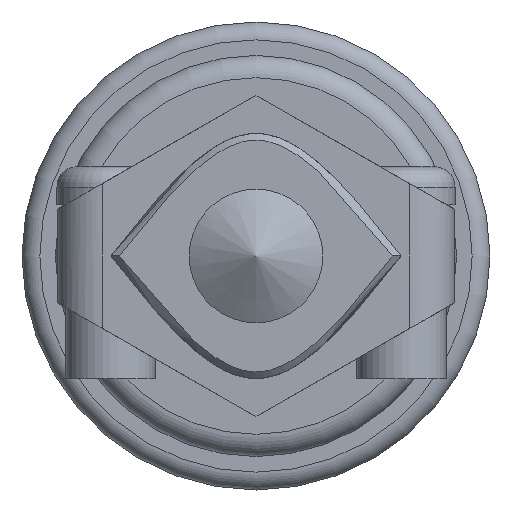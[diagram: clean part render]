
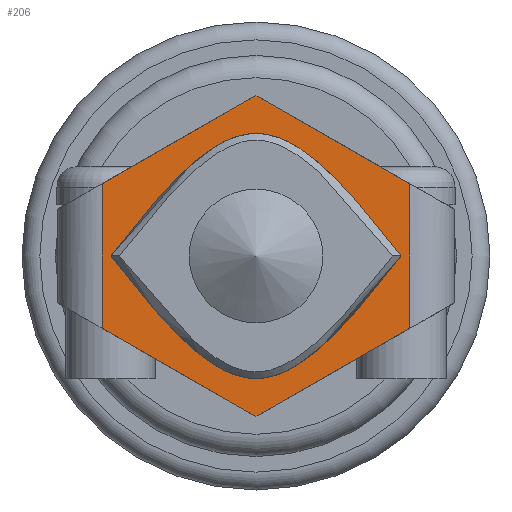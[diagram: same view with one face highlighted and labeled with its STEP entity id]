
A CAD part, left-side view. The second image highlights one B-rep face of the part: STEP entity #206.
In plain terms, the highlighted planar face has unit normal (-1, 0, 0).
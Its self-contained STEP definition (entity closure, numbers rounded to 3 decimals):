
#3 = VECTOR ( 'NONE', #83, 1000. ) ;
#30 = DIRECTION ( 'NONE',  ( 0., -0.868, -0.497 ) ) ;
#41 = FACE_BOUND ( 'NONE', #1406, .T. ) ;
#51 = DIRECTION ( 'NONE',  ( 0., -0.868, 0.497 ) ) ;
#55 = EDGE_CURVE ( 'NONE', #2209, #1435, #1666, .T. ) ;
#83 = DIRECTION ( 'NONE',  ( 0., 0.868, 0.497 ) ) ;
#127 = CARTESIAN_POINT ( 'NONE',  ( 111.691, 48.161, 57.853 ) ) ;
#136 = DIRECTION ( 'NONE',  ( 0., 0.868, -0.497 ) ) ;
#206 = ADVANCED_FACE ( 'NONE', ( #228, #41 ), #1706, .F. ) ;
#228 = FACE_OUTER_BOUND ( 'NONE', #631, .T. ) ;
#279 = ORIENTED_EDGE ( 'NONE', *, *, #2093, .T. ) ;
#297 = VECTOR ( 'NONE', #792, 1000. ) ;
#344 = ORIENTED_EDGE ( 'NONE', *, *, #2228, .T. ) ;
#361 = VECTOR ( 'NONE', #136, 1000. ) ;
#418 = DIRECTION ( 'NONE',  ( 0., 0., -1. ) ) ;
#496 = VECTOR ( 'NONE', #51, 1000. ) ;
#555 = CARTESIAN_POINT ( 'NONE',  ( 111.691, 47.761, 59.953 ) ) ;
#594 = CARTESIAN_POINT ( 'NONE',  ( 111.691, 47.761, 54.607 ) ) ;
#614 = CARTESIAN_POINT ( 'NONE',  ( 111.691, 58.994, 55.103 ) ) ;
#624 = DIRECTION ( 'NONE',  ( 1., 0., 0. ) ) ;
#631 = EDGE_LOOP ( 'NONE', ( #2073, #1201, #1855, #279, #923, #344 ) ) ;
#657 = EDGE_CURVE ( 'NONE', #2027, #1888, #1894, .T. ) ;
#710 = CARTESIAN_POINT ( 'NONE',  ( 111.691, 58.994, 60.603 ) ) ;
#723 = EDGE_CURVE ( 'NONE', #958, #730, #919, .T. ) ;
#730 = VERTEX_POINT ( 'NONE', #850 ) ;
#738 = CARTESIAN_POINT ( 'NONE',  ( 111.691, 54.661, 66.103 ) ) ;
#747 = VERTEX_POINT ( 'NONE', #2301 ) ;
#792 = DIRECTION ( 'NONE',  ( 0., 0., 1. ) ) ;
#817 = CARTESIAN_POINT ( 'NONE',  ( 111.691, 48.161, 57.853 ) ) ;
#832 = ORIENTED_EDGE ( 'NONE', *, *, #840, .F. ) ;
#840 = EDGE_CURVE ( 'NONE', #1435, #2209, #1622, .T. ) ;
#850 = CARTESIAN_POINT ( 'NONE',  ( 111.691, 61.561, 54.607 ) ) ;
#887 = EDGE_CURVE ( 'NONE', #2007, #2027, #1364, .T. ) ;
#899 = CARTESIAN_POINT ( 'NONE',  ( 111.691, 50.327, 60.603 ) ) ;
#919 = LINE ( 'NONE', #2004, #1132 ) ;
#923 = ORIENTED_EDGE ( 'NONE', *, *, #723, .T. ) ;
#958 = VERTEX_POINT ( 'NONE', #2145 ) ;
#1004 = CARTESIAN_POINT ( 'NONE',  ( 111.691, 50.327, 55.103 ) ) ;
#1005 = CARTESIAN_POINT ( 'NONE',  ( 111.691, 45.761, 59.953 ) ) ;
#1027 = ORIENTED_EDGE ( 'NONE', *, *, #55, .F. ) ;
#1132 = VECTOR ( 'NONE', #418, 1000. ) ;
#1187 = CARTESIAN_POINT ( 'NONE',  ( 111.691, 54.661, 49.603 ) ) ;
#1201 = ORIENTED_EDGE ( 'NONE', *, *, #657, .T. ) ;
#1346 = CARTESIAN_POINT ( 'NONE',  ( 111.691, 63.561, 59.953 ) ) ;
#1364 = LINE ( 'NONE', #2125, #496 ) ;
#1369 = EDGE_CURVE ( 'NONE', #1888, #747, #1531, .T. ) ;
#1406 = EDGE_LOOP ( 'NONE', ( #832, #1027 ) ) ;
#1426 = LINE ( 'NONE', #1987, #361 ) ;
#1435 = VERTEX_POINT ( 'NONE', #1804 ) ;
#1531 = LINE ( 'NONE', #1005, #3 ) ;
#1541 = CARTESIAN_POINT ( 'NONE',  ( 111.691, 54.661, 50.653 ) ) ;
#1614 = CARTESIAN_POINT ( 'NONE',  ( 111.691, 61.161, 57.853 ) ) ;
#1622 = B_SPLINE_CURVE_WITH_KNOTS ( 'NONE', 3,
 ( #2291, #614, #1187, #1004, #817 ),
 .UNSPECIFIED., .F., .F.,
 ( 4, 1, 4 ),
 ( 0., 0.5, 1. ),
 .UNSPECIFIED. ) ;
#1666 = B_SPLINE_CURVE_WITH_KNOTS ( 'NONE', 3,
 ( #127, #899, #738, #710, #1614 ),
 .UNSPECIFIED., .F., .F.,
 ( 4, 1, 4 ),
 ( 0., 0.5, 1. ),
 .UNSPECIFIED. ) ;
#1688 = CARTESIAN_POINT ( 'NONE',  ( 111.691, 47.761, 61.099 ) ) ;
#1706 = PLANE ( 'NONE',  #1935 ) ;
#1804 = CARTESIAN_POINT ( 'NONE',  ( 111.691, 61.161, 57.853 ) ) ;
#1855 = ORIENTED_EDGE ( 'NONE', *, *, #1369, .T. ) ;
#1888 = VERTEX_POINT ( 'NONE', #1688 ) ;
#1892 = LINE ( 'NONE', #2226, #2282 ) ;
#1894 = LINE ( 'NONE', #555, #297 ) ;
#1935 = AXIS2_PLACEMENT_3D ( 'NONE', #1346, #624, #2079 ) ;
#1987 = CARTESIAN_POINT ( 'NONE',  ( 111.691, 63.561, 59.953 ) ) ;
#2004 = CARTESIAN_POINT ( 'NONE',  ( 111.691, 61.561, 59.953 ) ) ;
#2007 = VERTEX_POINT ( 'NONE', #1541 ) ;
#2027 = VERTEX_POINT ( 'NONE', #594 ) ;
#2040 = CARTESIAN_POINT ( 'NONE',  ( 111.691, 48.161, 57.853 ) ) ;
#2073 = ORIENTED_EDGE ( 'NONE', *, *, #887, .T. ) ;
#2079 = DIRECTION ( 'NONE',  ( 0., 0., 1. ) ) ;
#2093 = EDGE_CURVE ( 'NONE', #747, #958, #1426, .T. ) ;
#2125 = CARTESIAN_POINT ( 'NONE',  ( 111.691, 45.761, 55.753 ) ) ;
#2145 = CARTESIAN_POINT ( 'NONE',  ( 111.691, 61.561, 61.099 ) ) ;
#2209 = VERTEX_POINT ( 'NONE', #2040 ) ;
#2226 = CARTESIAN_POINT ( 'NONE',  ( 111.691, 63.561, 55.753 ) ) ;
#2228 = EDGE_CURVE ( 'NONE', #730, #2007, #1892, .T. ) ;
#2282 = VECTOR ( 'NONE', #30, 1000. ) ;
#2291 = CARTESIAN_POINT ( 'NONE',  ( 111.691, 61.161, 57.853 ) ) ;
#2301 = CARTESIAN_POINT ( 'NONE',  ( 111.691, 54.661, 65.053 ) ) ;
